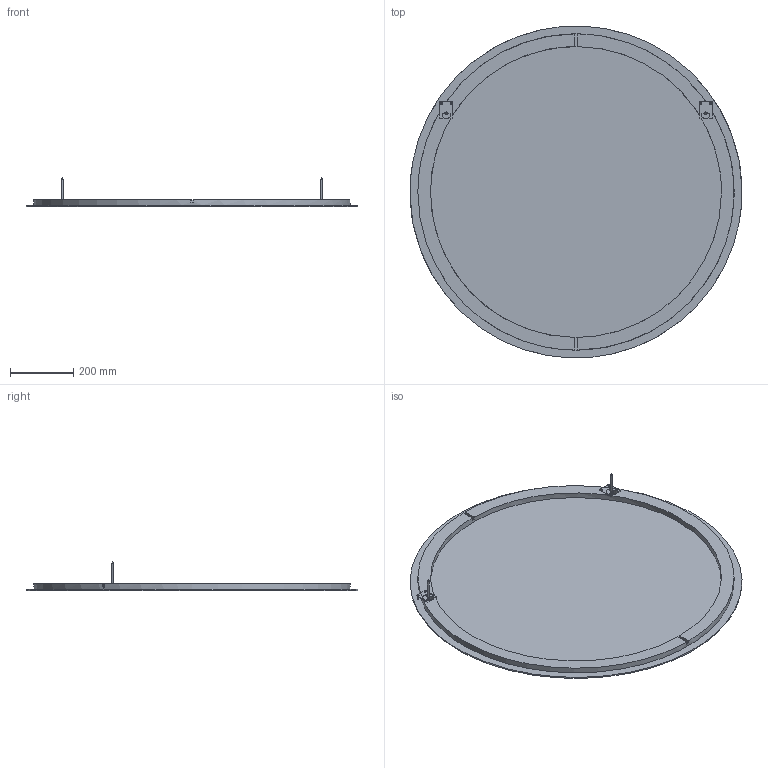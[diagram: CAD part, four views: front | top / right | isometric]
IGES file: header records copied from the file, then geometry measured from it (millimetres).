
Global section: file name: 3D Dosyası,; native system: Autodesk Inventor 2024; preprocessor: unknown; author: pcs35; date: 20250710.102151; units: millimetre
Bounding box: 1049.61 x 1049.37 x 92 mm (x, y, z)
Volume: 5607810.1 mm3; surface area: 2108090.6 mm2
Topology: 14 solids, 14 shells, 420 faces, 1078 edges, 661 vertices
Faces by surface type: bspline 420
